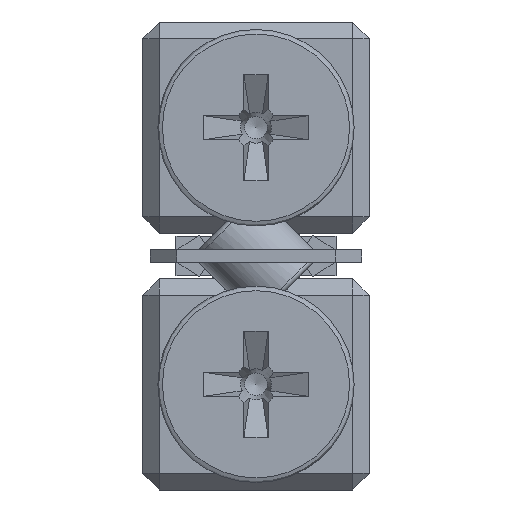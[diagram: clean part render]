
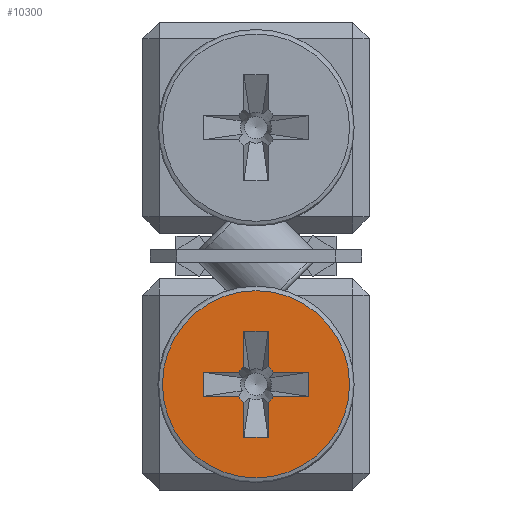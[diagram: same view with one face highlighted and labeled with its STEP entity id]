
A CAD part, left-side view. The second image highlights one B-rep face of the part: STEP entity #10300.
In plain terms, the highlighted planar face has unit normal (-1, 0, 0).
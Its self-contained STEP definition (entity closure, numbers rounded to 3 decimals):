
#179 = ORIENTED_EDGE ( 'NONE', *, *, #9163, .F. ) ;
#260 = CARTESIAN_POINT ( 'NONE',  ( -152., -0.8, 5.827 ) ) ;
#345 = DIRECTION ( 'NONE',  ( -1., 0., 0. ) ) ;
#359 = CARTESIAN_POINT ( 'NONE',  ( -152., 0.8, 3.5 ) ) ;
#454 = CARTESIAN_POINT ( 'NONE',  ( -152., 3.5, 7.8 ) ) ;
#562 = VECTOR ( 'NONE', #10752, 1000. ) ;
#868 = CARTESIAN_POINT ( 'NONE',  ( -152., -0.8, 3.5 ) ) ;
#891 = DIRECTION ( 'NONE',  ( 0., 0., 1. ) ) ;
#932 = VERTEX_POINT ( 'NONE', #2819 ) ;
#1008 = DIRECTION ( 'NONE',  ( 0., 1., 0. ) ) ;
#1061 = AXIS2_PLACEMENT_3D ( 'NONE', #14529, #8929, #8777 ) ;
#1083 = ORIENTED_EDGE ( 'NONE', *, *, #1779, .T. ) ;
#1139 = AXIS2_PLACEMENT_3D ( 'NONE', #12980, #2876, #7363 ) ;
#1171 = EDGE_LOOP ( 'NONE', ( #12140, #2392, #11295, #11305, #14447, #4037, #4338, #4848, #6395, #12382, #11723, #11227, #13682, #3094, #179, #1083 ) ) ;
#1172 = VERTEX_POINT ( 'NONE', #11418 ) ;
#1212 = CARTESIAN_POINT ( 'NONE',  ( -152., -1.173, 7.8 ) ) ;
#1281 = VECTOR ( 'NONE', #5604, 1000. ) ;
#1307 = VECTOR ( 'NONE', #4780, 1000. ) ;
#1322 = PLANE ( 'NONE',  #1505 ) ;
#1362 = VERTEX_POINT ( 'NONE', #868 ) ;
#1505 = AXIS2_PLACEMENT_3D ( 'NONE', #11732, #6118, #10622 ) ;
#1779 = EDGE_CURVE ( 'NONE', #10624, #2120, #8852, .T. ) ;
#1841 = CIRCLE ( 'NONE', #1139, 1.42 ) ;
#2120 = VERTEX_POINT ( 'NONE', #2956 ) ;
#2387 = CARTESIAN_POINT ( 'NONE',  ( -152., 0.8, 5.827 ) ) ;
#2392 = ORIENTED_EDGE ( 'NONE', *, *, #5589, .T. ) ;
#2626 = CARTESIAN_POINT ( 'NONE',  ( -152., 0., 7. ) ) ;
#2709 = DIRECTION ( 'NONE',  ( 0., 0., -1. ) ) ;
#2819 = CARTESIAN_POINT ( 'NONE',  ( -152., 0.8, 8.173 ) ) ;
#2876 = DIRECTION ( 'NONE',  ( -1., 0., 0. ) ) ;
#2922 = EDGE_CURVE ( 'NONE', #1172, #10620, #11507, .T. ) ;
#2956 = CARTESIAN_POINT ( 'NONE',  ( -152., -1.173, 6.2 ) ) ;
#3001 = CARTESIAN_POINT ( 'NONE',  ( -152., -0.8, 8.173 ) ) ;
#3004 = DIRECTION ( 'NONE',  ( 0., 0., 1. ) ) ;
#3094 = ORIENTED_EDGE ( 'NONE', *, *, #11978, .T. ) ;
#3134 = CARTESIAN_POINT ( 'NONE',  ( -152., -3.5, 6.2 ) ) ;
#3149 = VECTOR ( 'NONE', #891, 1000. ) ;
#3421 = CARTESIAN_POINT ( 'NONE',  ( -152., 3.5, 7.8 ) ) ;
#3439 = VERTEX_POINT ( 'NONE', #359 ) ;
#3477 = VECTOR ( 'NONE', #7125, 1000. ) ;
#3515 = CARTESIAN_POINT ( 'NONE',  ( -152., -3.5, 6.2 ) ) ;
#3808 = CARTESIAN_POINT ( 'NONE',  ( -152., 0., 7. ) ) ;
#4037 = ORIENTED_EDGE ( 'NONE', *, *, #12836, .T. ) ;
#4047 = CARTESIAN_POINT ( 'NONE',  ( -152., 0.8, 3.5 ) ) ;
#4338 = ORIENTED_EDGE ( 'NONE', *, *, #7613, .F. ) ;
#4437 = EDGE_CURVE ( 'NONE', #3439, #1362, #4991, .T. ) ;
#4510 = LINE ( 'NONE', #3421, #9759 ) ;
#4614 = VERTEX_POINT ( 'NONE', #3001 ) ;
#4687 = LINE ( 'NONE', #11480, #11158 ) ;
#4752 = DIRECTION ( 'NONE',  ( 0., 0., 1. ) ) ;
#4780 = DIRECTION ( 'NONE',  ( 0., 1., 0. ) ) ;
#4848 = ORIENTED_EDGE ( 'NONE', *, *, #10277, .T. ) ;
#4934 = DIRECTION ( 'NONE',  ( 0., -1., 0. ) ) ;
#4991 = LINE ( 'NONE', #8319, #14361 ) ;
#5067 = VERTEX_POINT ( 'NONE', #7477 ) ;
#5368 = LINE ( 'NONE', #4047, #3149 ) ;
#5427 = CARTESIAN_POINT ( 'NONE',  ( -152., 3.5, 7.8 ) ) ;
#5445 = AXIS2_PLACEMENT_3D ( 'NONE', #2626, #345, #4752 ) ;
#5454 = CARTESIAN_POINT ( 'NONE',  ( -152., -3.5, 6.2 ) ) ;
#5589 = EDGE_CURVE ( 'NONE', #12044, #1362, #11434, .T. ) ;
#5598 = VERTEX_POINT ( 'NONE', #9373 ) ;
#5604 = DIRECTION ( 'NONE',  ( 0., 1., 0. ) ) ;
#5729 = VECTOR ( 'NONE', #4934, 1000. ) ;
#5731 = DIRECTION ( 'NONE',  ( 0., 0., 1. ) ) ;
#5998 = EDGE_CURVE ( 'NONE', #932, #5598, #10412, .T. ) ;
#6033 = VECTOR ( 'NONE', #3004, 1000. ) ;
#6050 = EDGE_LOOP ( 'NONE', ( #7130 ) ) ;
#6118 = DIRECTION ( 'NONE',  ( 1., 0., 0. ) ) ;
#6197 = EDGE_CURVE ( 'NONE', #8075, #14501, #13121, .T. ) ;
#6244 = CARTESIAN_POINT ( 'NONE',  ( -152., -0.8, 10.5 ) ) ;
#6395 = ORIENTED_EDGE ( 'NONE', *, *, #5998, .F. ) ;
#6677 = LINE ( 'NONE', #11110, #13758 ) ;
#6707 = EDGE_CURVE ( 'NONE', #3439, #14501, #8244, .T. ) ;
#6812 = DIRECTION ( 'NONE',  ( 0., -1., 0. ) ) ;
#7066 = FACE_BOUND ( 'NONE', #1171, .T. ) ;
#7125 = DIRECTION ( 'NONE',  ( 0., 0., 1. ) ) ;
#7130 = ORIENTED_EDGE ( 'NONE', *, *, #11616, .T. ) ;
#7220 = FACE_OUTER_BOUND ( 'NONE', #6050, .T. ) ;
#7363 = DIRECTION ( 'NONE',  ( 0., 0., 1. ) ) ;
#7369 = CARTESIAN_POINT ( 'NONE',  ( -152., 3.5, 6.2 ) ) ;
#7422 = CIRCLE ( 'NONE', #1061, 1.42 ) ;
#7477 = CARTESIAN_POINT ( 'NONE',  ( -152., 3.5, 7.8 ) ) ;
#7531 = EDGE_CURVE ( 'NONE', #12044, #2120, #1841, .T. ) ;
#7613 = EDGE_CURVE ( 'NONE', #5067, #11133, #12147, .T. ) ;
#7931 = CARTESIAN_POINT ( 'NONE',  ( -152., 1.173, 6.2 ) ) ;
#7944 = CARTESIAN_POINT ( 'NONE',  ( -152., -3.5, 7.8 ) ) ;
#8075 = VERTEX_POINT ( 'NONE', #7931 ) ;
#8144 = VERTEX_POINT ( 'NONE', #1212 ) ;
#8201 = VERTEX_POINT ( 'NONE', #10175 ) ;
#8244 = LINE ( 'NONE', #10448, #3477 ) ;
#8319 = CARTESIAN_POINT ( 'NONE',  ( -152., 0.8, 3.5 ) ) ;
#8412 = CARTESIAN_POINT ( 'NONE',  ( -152., -0.8, 10.5 ) ) ;
#8673 = LINE ( 'NONE', #3134, #6033 ) ;
#8777 = DIRECTION ( 'NONE',  ( 0., 0., 1. ) ) ;
#8852 = LINE ( 'NONE', #5454, #1281 ) ;
#8929 = DIRECTION ( 'NONE',  ( -1., 0., 0. ) ) ;
#9117 = AXIS2_PLACEMENT_3D ( 'NONE', #12604, #10164, #5731 ) ;
#9163 = EDGE_CURVE ( 'NONE', #10624, #10541, #8673, .T. ) ;
#9373 = CARTESIAN_POINT ( 'NONE',  ( -152., 1.173, 7.8 ) ) ;
#9759 = VECTOR ( 'NONE', #6812, 1000. ) ;
#9898 = EDGE_CURVE ( 'NONE', #932, #10620, #5368, .T. ) ;
#10164 = DIRECTION ( 'NONE',  ( -1., 0., 0. ) ) ;
#10175 = CARTESIAN_POINT ( 'NONE',  ( -152., 0., 0.8 ) ) ;
#10277 = EDGE_CURVE ( 'NONE', #5067, #5598, #13781, .T. ) ;
#10300 = ADVANCED_FACE ( 'NONE', ( #7220, #7066 ), #1322, .F. ) ;
#10301 = DIRECTION ( 'NONE',  ( 0., 0., -1. ) ) ;
#10382 = DIRECTION ( 'NONE',  ( 0., -1., 0. ) ) ;
#10412 = CIRCLE ( 'NONE', #5445, 1.42 ) ;
#10448 = CARTESIAN_POINT ( 'NONE',  ( -152., 0.8, 3.5 ) ) ;
#10541 = VERTEX_POINT ( 'NONE', #7944 ) ;
#10620 = VERTEX_POINT ( 'NONE', #12801 ) ;
#10622 = DIRECTION ( 'NONE',  ( 0., 0., -1. ) ) ;
#10624 = VERTEX_POINT ( 'NONE', #3515 ) ;
#10670 = EDGE_CURVE ( 'NONE', #1172, #4614, #4687, .T. ) ;
#10752 = DIRECTION ( 'NONE',  ( 0., 0., -1. ) ) ;
#11110 = CARTESIAN_POINT ( 'NONE',  ( -152., -3.5, 6.2 ) ) ;
#11133 = VERTEX_POINT ( 'NONE', #7369 ) ;
#11158 = VECTOR ( 'NONE', #2709, 1000. ) ;
#11227 = ORIENTED_EDGE ( 'NONE', *, *, #10670, .T. ) ;
#11295 = ORIENTED_EDGE ( 'NONE', *, *, #4437, .F. ) ;
#11305 = ORIENTED_EDGE ( 'NONE', *, *, #6707, .T. ) ;
#11418 = CARTESIAN_POINT ( 'NONE',  ( -152., -0.8, 10.5 ) ) ;
#11434 = LINE ( 'NONE', #6244, #562 ) ;
#11480 = CARTESIAN_POINT ( 'NONE',  ( -152., -0.8, 10.5 ) ) ;
#11507 = LINE ( 'NONE', #8412, #1307 ) ;
#11616 = EDGE_CURVE ( 'NONE', #8201, #8201, #13772, .T. ) ;
#11723 = ORIENTED_EDGE ( 'NONE', *, *, #2922, .F. ) ;
#11732 = CARTESIAN_POINT ( 'NONE',  ( -152., 6.5, 7. ) ) ;
#11890 = AXIS2_PLACEMENT_3D ( 'NONE', #3808, #13909, #10301 ) ;
#11978 = EDGE_CURVE ( 'NONE', #8144, #10541, #4510, .T. ) ;
#12044 = VERTEX_POINT ( 'NONE', #260 ) ;
#12140 = ORIENTED_EDGE ( 'NONE', *, *, #7531, .F. ) ;
#12147 = LINE ( 'NONE', #5427, #13862 ) ;
#12372 = EDGE_CURVE ( 'NONE', #8144, #4614, #7422, .T. ) ;
#12382 = ORIENTED_EDGE ( 'NONE', *, *, #9898, .T. ) ;
#12604 = CARTESIAN_POINT ( 'NONE',  ( -152., 0., 7. ) ) ;
#12801 = CARTESIAN_POINT ( 'NONE',  ( -152., 0.8, 10.5 ) ) ;
#12836 = EDGE_CURVE ( 'NONE', #8075, #11133, #6677, .T. ) ;
#12980 = CARTESIAN_POINT ( 'NONE',  ( -152., 0., 7. ) ) ;
#13121 = CIRCLE ( 'NONE', #9117, 1.42 ) ;
#13682 = ORIENTED_EDGE ( 'NONE', *, *, #12372, .F. ) ;
#13758 = VECTOR ( 'NONE', #1008, 1000. ) ;
#13772 = CIRCLE ( 'NONE', #11890, 6.2 ) ;
#13781 = LINE ( 'NONE', #454, #5729 ) ;
#13862 = VECTOR ( 'NONE', #14495, 1000. ) ;
#13909 = DIRECTION ( 'NONE',  ( -1., 0., 0. ) ) ;
#14361 = VECTOR ( 'NONE', #10382, 1000. ) ;
#14447 = ORIENTED_EDGE ( 'NONE', *, *, #6197, .F. ) ;
#14495 = DIRECTION ( 'NONE',  ( 0., 0., -1. ) ) ;
#14501 = VERTEX_POINT ( 'NONE', #2387 ) ;
#14529 = CARTESIAN_POINT ( 'NONE',  ( -152., 0., 7. ) ) ;
